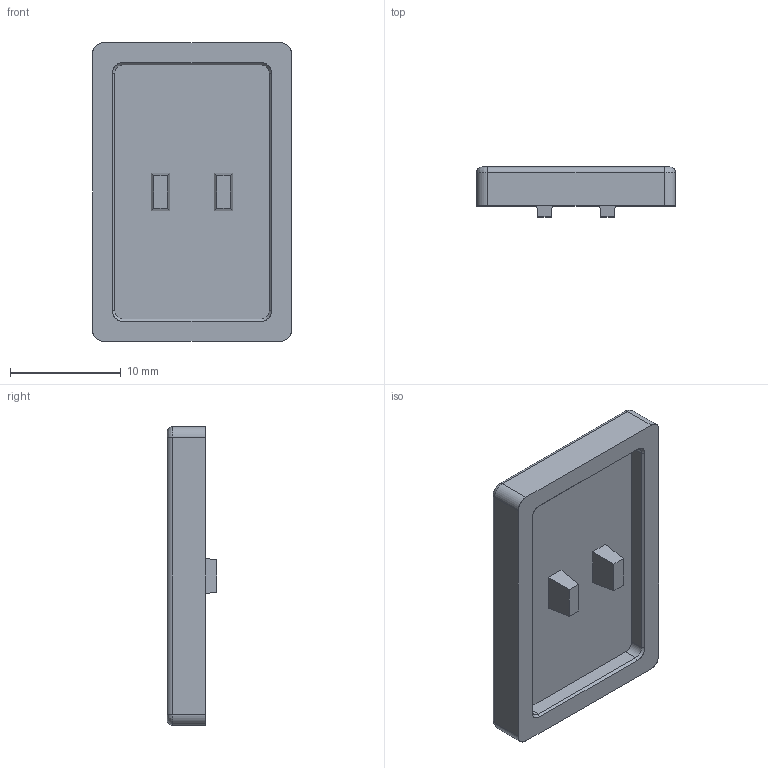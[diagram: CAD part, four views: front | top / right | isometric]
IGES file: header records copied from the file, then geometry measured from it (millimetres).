
Start section: SolidWorks IGES file using analytic representation for surfaces
Global section: file name: G:\byScottua\Keyboards\Kailh\1x1.5.IGS; native system: SolidWorks 2018; preprocessor: SolidWorks 2018; author: PHFHXE; date: 200324.122152; units: millimetre
Bounding box: 18 x 4.5 x 27 mm (x, y, z)
Surface area: 1404.1 mm2 (no closed solid volume)
Topology: 0 solids, 0 shells, 56 faces, 536 edges, 536 vertices
Faces by surface type: bspline 40, revolution 16
